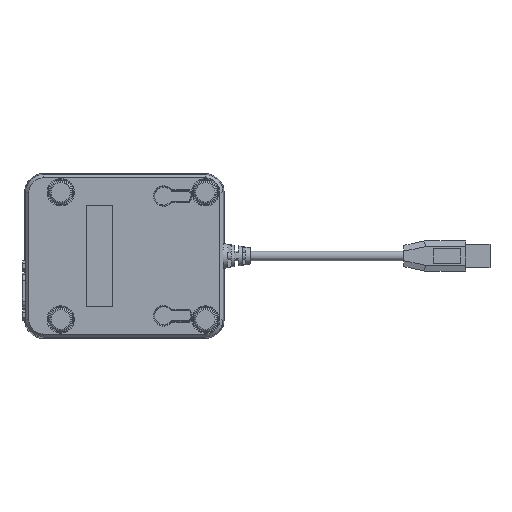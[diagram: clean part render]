
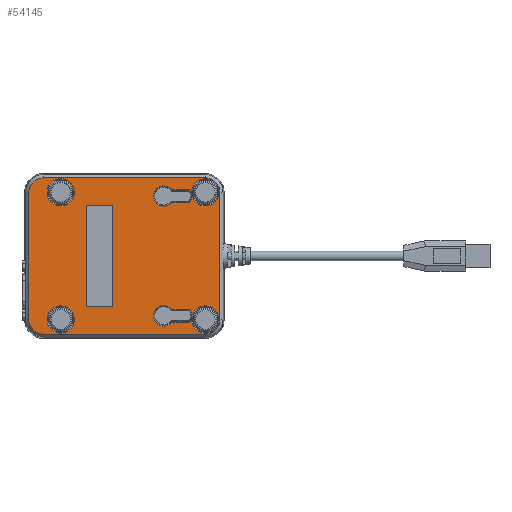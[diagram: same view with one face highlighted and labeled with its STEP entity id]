
A CAD part, top view. The second image highlights one B-rep face of the part: STEP entity #54145.
In plain terms, the highlighted planar face has unit normal (0, 0, 1).
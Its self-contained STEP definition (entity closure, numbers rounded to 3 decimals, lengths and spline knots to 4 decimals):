
#6084=DIRECTION('',(0.,1.,0.));
#6085=VECTOR('',#6084,2.55);
#6086=CARTESIAN_POINT('',(1.915,-1.275,
0.86));
#6087=LINE('',#6086,#6085);
#6088=CARTESIAN_POINT('',(1.625,-1.275,0.86));
#6089=DIRECTION('',(0.,0.,1.));
#6090=DIRECTION('',(0.,-1.,0.));
#6091=AXIS2_PLACEMENT_3D('',#6088,#6089,#6090);
#6093=DIRECTION('',(1.,0.,0.));
#6094=VECTOR('',#6093,3.25);
#6095=CARTESIAN_POINT('',(-1.625,-1.565,
0.86));
#6096=LINE('',#6095,#6094);
#6097=CARTESIAN_POINT('',(-1.625,-1.275,0.86));
#6098=DIRECTION('',(0.,0.,1.));
#6099=DIRECTION('',(-1.,0.,0.));
#6100=AXIS2_PLACEMENT_3D('',#6097,#6098,#6099);
#6102=DIRECTION('',(0.,-1.,0.));
#6103=VECTOR('',#6102,2.55);
#6104=CARTESIAN_POINT('',(-1.915,1.275,
0.86));
#6105=LINE('',#6104,#6103);
#6106=CARTESIAN_POINT('',(-1.625,1.275,0.86));
#6107=DIRECTION('',(0.,0.,1.));
#6108=DIRECTION('',(0.,1.,0.));
#6109=AXIS2_PLACEMENT_3D('',#6106,#6107,#6108);
#6111=DIRECTION('',(-1.,0.,0.));
#6112=VECTOR('',#6111,3.25);
#6113=CARTESIAN_POINT('',(1.625,1.565,0.86));
#6114=LINE('',#6113,#6112);
#6115=CARTESIAN_POINT('',(1.625,1.275,0.86));
#6116=DIRECTION('',(0.,0.,1.));
#6117=DIRECTION('',(1.,0.,0.));
#6118=AXIS2_PLACEMENT_3D('',#6115,#6116,#6117);
#6120=DIRECTION('',(0.,-1.,0.));
#6121=VECTOR('',#6120,2.03);
#6122=CARTESIAN_POINT('',(-0.765,1.015,0.86));
#6123=LINE('',#6122,#6121);
#6124=DIRECTION('',(1.,0.,0.));
#6125=VECTOR('',#6124,0.53);
#6126=CARTESIAN_POINT('',(-0.765,-1.015,0.86));
#6127=LINE('',#6126,#6125);
#6128=DIRECTION('',(0.,1.,0.));
#6129=VECTOR('',#6128,2.03);
#6130=CARTESIAN_POINT('',(-0.235,-1.015,0.86));
#6131=LINE('',#6130,#6129);
#6132=DIRECTION('',(-1.,0.,0.));
#6133=VECTOR('',#6132,0.53);
#6134=CARTESIAN_POINT('',(-0.235,1.015,0.86));
#6135=LINE('',#6134,#6133);
#6136=DIRECTION('',(1.,0.,0.));
#6137=VECTOR('',#6136,0.3571);
#6138=CARTESIAN_POINT('',(0.9513,-1.3267,0.86));
#6139=LINE('',#6138,#6137);
#6140=CARTESIAN_POINT('',(1.158,-1.2,0.86));
#6141=DIRECTION('',(0.,0.,-1.));
#6142=DIRECTION('',(0.765,0.644,0.));
#6143=AXIS2_PLACEMENT_3D('',#6140,#6141,#6142);
#6145=DIRECTION('',(-1.,0.,0.));
#6146=VECTOR('',#6145,0.3571);
#6147=CARTESIAN_POINT('',(1.3084,-1.0733,0.86));
#6148=LINE('',#6147,#6146);
#6149=CARTESIAN_POINT('',(0.788,-1.2,0.86));
#6150=DIRECTION('',(0.,0.,-1.));
#6151=DIRECTION('',(0.79,-0.613,0.));
#6152=AXIS2_PLACEMENT_3D('',#6149,#6150,#6151);
#6154=DIRECTION('',(1.,0.,0.));
#6155=VECTOR('',#6154,0.3571);
#6156=CARTESIAN_POINT('',(0.9513,1.0733,0.86));
#6157=LINE('',#6156,#6155);
#6158=CARTESIAN_POINT('',(1.158,1.2,0.86));
#6159=DIRECTION('',(0.,0.,-1.));
#6160=DIRECTION('',(0.765,0.644,0.));
#6161=AXIS2_PLACEMENT_3D('',#6158,#6159,#6160);
#6163=DIRECTION('',(-1.,0.,0.));
#6164=VECTOR('',#6163,0.3571);
#6165=CARTESIAN_POINT('',(1.3084,1.3267,0.86));
#6166=LINE('',#6165,#6164);
#6167=CARTESIAN_POINT('',(0.788,1.2,0.86));
#6168=DIRECTION('',(0.,0.,-1.));
#6169=DIRECTION('',(0.79,-0.613,0.));
#6170=AXIS2_PLACEMENT_3D('',#6167,#6168,#6169);
#6172=CARTESIAN_POINT('',(1.625,-1.275,0.86));
#6173=DIRECTION('',(0.,0.,-1.));
#6174=DIRECTION('',(0.,1.,0.));
#6175=AXIS2_PLACEMENT_3D('',#6172,#6173,#6174);
#6177=CARTESIAN_POINT('',(1.625,-1.275,0.86));
#6178=DIRECTION('',(0.,0.,-1.));
#6179=DIRECTION('',(0.,-1.,0.));
#6180=AXIS2_PLACEMENT_3D('',#6177,#6178,#6179);
#6182=CARTESIAN_POINT('',(1.625,1.275,0.86));
#6183=DIRECTION('',(0.,0.,-1.));
#6184=DIRECTION('',(0.,1.,0.));
#6185=AXIS2_PLACEMENT_3D('',#6182,#6183,#6184);
#6187=CARTESIAN_POINT('',(1.625,1.275,0.86));
#6188=DIRECTION('',(0.,0.,-1.));
#6189=DIRECTION('',(0.,-1.,0.));
#6190=AXIS2_PLACEMENT_3D('',#6187,#6188,#6189);
#6192=CARTESIAN_POINT('',(-1.275,-1.275,0.86));
#6193=DIRECTION('',(0.,0.,-1.));
#6194=DIRECTION('',(0.,1.,0.));
#6195=AXIS2_PLACEMENT_3D('',#6192,#6193,#6194);
#6197=CARTESIAN_POINT('',(-1.275,-1.275,0.86));
#6198=DIRECTION('',(0.,0.,-1.));
#6199=DIRECTION('',(0.,-1.,0.));
#6200=AXIS2_PLACEMENT_3D('',#6197,#6198,#6199);
#6202=CARTESIAN_POINT('',(-1.275,1.275,0.86));
#6203=DIRECTION('',(0.,0.,-1.));
#6204=DIRECTION('',(0.,1.,0.));
#6205=AXIS2_PLACEMENT_3D('',#6202,#6203,#6204);
#6207=CARTESIAN_POINT('',(-1.275,1.275,0.86));
#6208=DIRECTION('',(0.,0.,-1.));
#6209=DIRECTION('',(0.,-1.,0.));
#6210=AXIS2_PLACEMENT_3D('',#6207,#6208,#6209);
#41628=CARTESIAN_POINT('',(1.915,-1.275,
0.86));
#41629=CARTESIAN_POINT('',(1.915,1.275,
0.86));
#41630=VERTEX_POINT('',#41628);
#41631=VERTEX_POINT('',#41629);
#41632=CARTESIAN_POINT('',(1.625,1.565,0.86));
#41633=VERTEX_POINT('',#41632);
#41634=CARTESIAN_POINT('',(-1.625,1.565,
0.86));
#41635=VERTEX_POINT('',#41634);
#41636=CARTESIAN_POINT('',(-1.915,1.275,0.86));
#41637=VERTEX_POINT('',#41636);
#41638=CARTESIAN_POINT('',(-1.915,-1.275,
0.86));
#41639=VERTEX_POINT('',#41638);
#41640=CARTESIAN_POINT('',(-1.625,-1.565,0.86));
#41641=VERTEX_POINT('',#41640);
#41642=CARTESIAN_POINT('',(1.625,-1.565,
0.86));
#41643=VERTEX_POINT('',#41642);
#42656=CARTESIAN_POINT('',(0.9513,-1.3267,0.86));
#42657=CARTESIAN_POINT('',(1.3084,-1.3267,0.86));
#42658=VERTEX_POINT('',#42656);
#42659=VERTEX_POINT('',#42657);
#42664=CARTESIAN_POINT('',(0.9513,-1.0733,0.86));
#42665=VERTEX_POINT('',#42664);
#42668=CARTESIAN_POINT('',(1.3084,-1.0733,0.86));
#42669=VERTEX_POINT('',#42668);
#42672=CARTESIAN_POINT('',(0.9513,1.0733,0.86));
#42673=CARTESIAN_POINT('',(1.3084,1.0733,0.86));
#42674=VERTEX_POINT('',#42672);
#42675=VERTEX_POINT('',#42673);
#42680=CARTESIAN_POINT('',(0.9513,1.3267,0.86));
#42681=VERTEX_POINT('',#42680);
#42684=CARTESIAN_POINT('',(1.3084,1.3267,0.86));
#42685=VERTEX_POINT('',#42684);
#42688=CARTESIAN_POINT('',(1.625,-1.0014,0.86));
#42689=CARTESIAN_POINT('',(1.625,-1.5486,0.86));
#42690=VERTEX_POINT('',#42688);
#42691=VERTEX_POINT('',#42689);
#42696=CARTESIAN_POINT('',(1.625,1.5486,0.86));
#42697=CARTESIAN_POINT('',(1.625,1.0014,0.86));
#42698=VERTEX_POINT('',#42696);
#42699=VERTEX_POINT('',#42697);
#42704=CARTESIAN_POINT('',(-1.275,-1.0014,0.86));
#42705=CARTESIAN_POINT('',(-1.275,-1.5486,0.86));
#42706=VERTEX_POINT('',#42704);
#42707=VERTEX_POINT('',#42705);
#42712=CARTESIAN_POINT('',(-1.275,1.5486,0.86));
#42713=CARTESIAN_POINT('',(-1.275,1.0014,0.86));
#42714=VERTEX_POINT('',#42712);
#42715=VERTEX_POINT('',#42713);
#42776=CARTESIAN_POINT('',(-0.765,1.015,0.86));
#42777=CARTESIAN_POINT('',(-0.765,-1.015,0.86));
#42778=VERTEX_POINT('',#42776);
#42779=VERTEX_POINT('',#42777);
#42780=CARTESIAN_POINT('',(-0.235,-1.015,0.86));
#42781=VERTEX_POINT('',#42780);
#42782=CARTESIAN_POINT('',(-0.235,1.015,0.86));
#42783=VERTEX_POINT('',#42782);
#54069=CARTESIAN_POINT('',(0.,0.,0.86));
#54070=DIRECTION('',(0.,0.,1.));
#54071=DIRECTION('',(1.,0.,0.));
#54072=AXIS2_PLACEMENT_3D('',#54069,#54070,#54071);
#54073=PLANE('',#54072);
#54075=ORIENTED_EDGE('',*,*,#54074,.F.);
#54077=ORIENTED_EDGE('',*,*,#54076,.F.);
#54079=ORIENTED_EDGE('',*,*,#54078,.F.);
#54081=ORIENTED_EDGE('',*,*,#54080,.F.);
#54083=ORIENTED_EDGE('',*,*,#54082,.F.);
#54085=ORIENTED_EDGE('',*,*,#54084,.F.);
#54087=ORIENTED_EDGE('',*,*,#54086,.F.);
#54088=ORIENTED_EDGE('',*,*,#54059,.F.);
#54089=EDGE_LOOP('',(#54075,#54077,#54079,#54081,#54083,#54085,#54087,#54088));
#54090=FACE_OUTER_BOUND('',#54089,.F.);
#54092=ORIENTED_EDGE('',*,*,#54091,.T.);
#54094=ORIENTED_EDGE('',*,*,#54093,.T.);
#54096=ORIENTED_EDGE('',*,*,#54095,.T.);
#54098=ORIENTED_EDGE('',*,*,#54097,.T.);
#54099=EDGE_LOOP('',(#54092,#54094,#54096,#54098));
#54100=FACE_BOUND('',#54099,.F.);
#54102=ORIENTED_EDGE('',*,*,#54101,.T.);
#54104=ORIENTED_EDGE('',*,*,#54103,.F.);
#54106=ORIENTED_EDGE('',*,*,#54105,.T.);
#54108=ORIENTED_EDGE('',*,*,#54107,.F.);
#54109=EDGE_LOOP('',(#54102,#54104,#54106,#54108));
#54110=FACE_BOUND('',#54109,.F.);
#54112=ORIENTED_EDGE('',*,*,#54111,.T.);
#54114=ORIENTED_EDGE('',*,*,#54113,.F.);
#54116=ORIENTED_EDGE('',*,*,#54115,.T.);
#54118=ORIENTED_EDGE('',*,*,#54117,.F.);
#54119=EDGE_LOOP('',(#54112,#54114,#54116,#54118));
#54120=FACE_BOUND('',#54119,.F.);
#54122=ORIENTED_EDGE('',*,*,#54121,.F.);
#54124=ORIENTED_EDGE('',*,*,#54123,.F.);
#54125=EDGE_LOOP('',(#54122,#54124));
#54126=FACE_BOUND('',#54125,.F.);
#54128=ORIENTED_EDGE('',*,*,#54127,.F.);
#54130=ORIENTED_EDGE('',*,*,#54129,.F.);
#54131=EDGE_LOOP('',(#54128,#54130));
#54132=FACE_BOUND('',#54131,.F.);
#54134=ORIENTED_EDGE('',*,*,#54133,.F.);
#54136=ORIENTED_EDGE('',*,*,#54135,.F.);
#54137=EDGE_LOOP('',(#54134,#54136));
#54138=FACE_BOUND('',#54137,.F.);
#54140=ORIENTED_EDGE('',*,*,#54139,.F.);
#54142=ORIENTED_EDGE('',*,*,#54141,.F.);
#54143=EDGE_LOOP('',(#54140,#54142));
#54144=FACE_BOUND('',#54143,.F.);
#54145=ADVANCED_FACE('',(#54090,#54100,#54110,#54120,#54126,#54132,#54138,
#54144),#54073,.T.);
#6092=CIRCLE('',#6091,0.29);
#6101=CIRCLE('',#6100,0.29);
#6110=CIRCLE('',#6109,0.29);
#6119=CIRCLE('',#6118,0.29);
#6144=CIRCLE('',#6143,0.1967);
#6153=CIRCLE('',#6152,0.2067);
#6162=CIRCLE('',#6161,0.1967);
#6171=CIRCLE('',#6170,0.2067);
#6176=CIRCLE('',#6175,0.2736);
#6181=CIRCLE('',#6180,0.2736);
#6186=CIRCLE('',#6185,0.2736);
#6191=CIRCLE('',#6190,0.2736);
#6196=CIRCLE('',#6195,0.2736);
#6201=CIRCLE('',#6200,0.2736);
#6206=CIRCLE('',#6205,0.2736);
#6211=CIRCLE('',#6210,0.2736);
#54059=EDGE_CURVE('',#41631,#41633,#6119,.T.);
#54074=EDGE_CURVE('',#41630,#41631,#6087,.T.);
#54076=EDGE_CURVE('',#41643,#41630,#6092,.T.);
#54078=EDGE_CURVE('',#41641,#41643,#6096,.T.);
#54080=EDGE_CURVE('',#41639,#41641,#6101,.T.);
#54082=EDGE_CURVE('',#41637,#41639,#6105,.T.);
#54084=EDGE_CURVE('',#41635,#41637,#6110,.T.);
#54086=EDGE_CURVE('',#41633,#41635,#6114,.T.);
#54091=EDGE_CURVE('',#42778,#42779,#6123,.T.);
#54093=EDGE_CURVE('',#42779,#42781,#6127,.T.);
#54095=EDGE_CURVE('',#42781,#42783,#6131,.T.);
#54097=EDGE_CURVE('',#42783,#42778,#6135,.T.);
#54101=EDGE_CURVE('',#42658,#42659,#6139,.T.);
#54103=EDGE_CURVE('',#42669,#42659,#6144,.T.);
#54105=EDGE_CURVE('',#42669,#42665,#6148,.T.);
#54107=EDGE_CURVE('',#42658,#42665,#6153,.T.);
#54111=EDGE_CURVE('',#42674,#42675,#6157,.T.);
#54113=EDGE_CURVE('',#42685,#42675,#6162,.T.);
#54115=EDGE_CURVE('',#42685,#42681,#6166,.T.);
#54117=EDGE_CURVE('',#42674,#42681,#6171,.T.);
#54121=EDGE_CURVE('',#42690,#42691,#6176,.T.);
#54123=EDGE_CURVE('',#42691,#42690,#6181,.T.);
#54127=EDGE_CURVE('',#42698,#42699,#6186,.T.);
#54129=EDGE_CURVE('',#42699,#42698,#6191,.T.);
#54133=EDGE_CURVE('',#42706,#42707,#6196,.T.);
#54135=EDGE_CURVE('',#42707,#42706,#6201,.T.);
#54139=EDGE_CURVE('',#42714,#42715,#6206,.T.);
#54141=EDGE_CURVE('',#42715,#42714,#6211,.T.);
